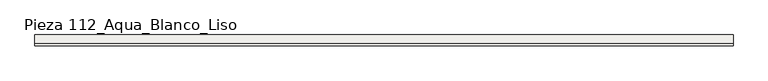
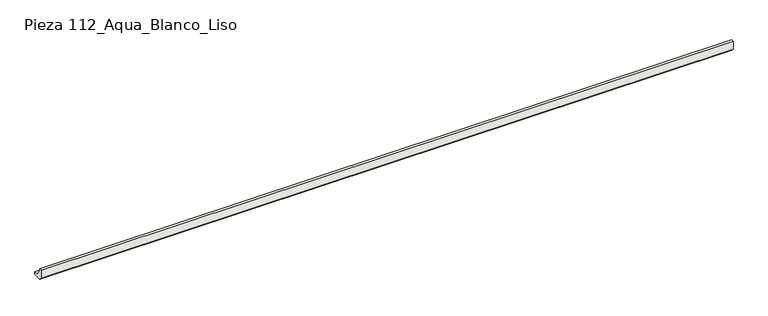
"""IFC4 building model written with IfcOpenShell, lengths in millimetres: slab geometry, ROSA GRES_112 : Pieza 112_Aqua_Blanco_Liso."""

from ifc_helpers import new_model, si_unit, point, frame, frame_2d, origin, place, context, project, spatial, polyline, circle_curve, trimmed, segment, composite_curve, outline, extrude, source, transform, mapped, element, save


def pieza_112_aqua_blanco_liso_c1875763(model_context):
    return source(origin(), model_context, "Body", "SweptSolid", [
        extrude(outline(composite_curve([segment(polyline([(0.0, 8.7114978), (0.0, 40.0), (9.9734114, 40.0)]), True, "CONTINUOUS"), segment(trimmed(circle_curve(frame_2d((39.9955547, 39.9955547)), 30.0221435), [point((9.9734114, 40.0))], [point((40.0, 9.9734114))], True, "CARTESIAN"), True, "CONTINUOUS"), segment(polyline([(40.0, 9.9734114), (40.0, 0.0), (8.7114978, 0.0), (0.0, 8.7114978)]), True, "CONTINUOUS")], self_intersect=False)), frame((0.0, 0.0, 0.0), z_axis=(1.0, 0.0, 0.0), x_axis=(0.0, 1.0, 0.0)), (0.0, 0.0, 1.0), 2519.9468229),
    ])


if __name__ == "__main__":
    model = new_model("IFC4")
    model_context = context("Model", 3, world=origin())
    ifc_project = project(units=[si_unit("LENGTHUNIT", "METRE", prefix="MILLI")], contexts=[model_context])
    site = spatial("IfcSite", under=ifc_project)
    building = spatial("IfcBuilding", under=site)
    placement = place(None, origin())
    pieza_112_aqua_blanco_liso_shape = pieza_112_aqua_blanco_liso_c1875763(model_context)
    element("IfcSlab", 1, ObjectType="ROSA GRES_112 : Pieza 112_Aqua_Blanco_Liso", at=placement, inside=building, context=model_context, shape_type="MappedRepresentation", body=[
        mapped(pieza_112_aqua_blanco_liso_shape, transform((0.0, 0.0, 0.0), x_axis=(1.0, 0.0, 0.0), y_axis=(0.0, 1.0, 0.0), z_axis=(0.0, 0.0, 1.0))),
    ])
    save(model, "model.ifc")
